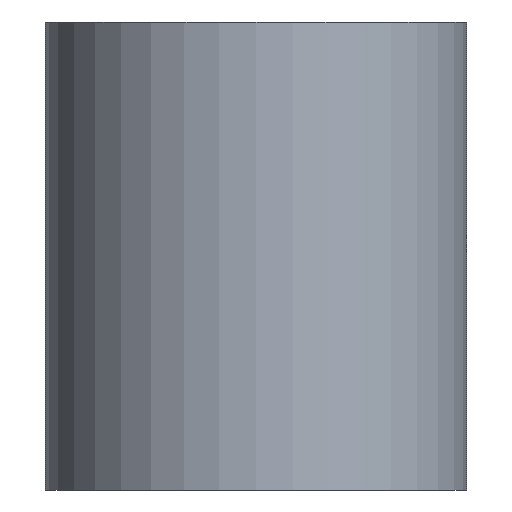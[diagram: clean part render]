
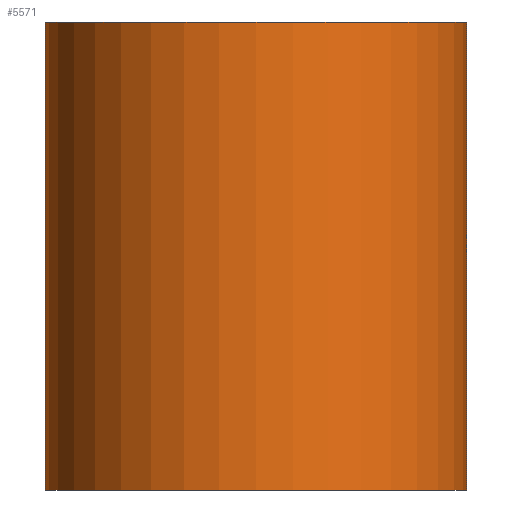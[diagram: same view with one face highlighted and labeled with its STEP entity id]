
A CAD part, left-side view. The second image highlights one B-rep face of the part: STEP entity #5571.
In plain terms, the highlighted cylindrical face has radius 3.6 mm (diameter 7.2 mm), a partial arc.
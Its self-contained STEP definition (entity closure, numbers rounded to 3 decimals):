
#467=LINE('',#9800,#811);
#469=LINE('',#9805,#813);
#811=VECTOR('',#8115,1000.);
#813=VECTOR('',#8121,1000.);
#2151=ORIENTED_EDGE('',*,*,#3107,.T.);
#2152=ORIENTED_EDGE('',*,*,#3108,.F.);
#2153=ORIENTED_EDGE('',*,*,#3040,.F.);
#2154=ORIENTED_EDGE('',*,*,#3105,.T.);
#3040=EDGE_CURVE('',#3598,#3595,#4034,.T.);
#3105=EDGE_CURVE('',#3598,#3663,#467,.T.);
#3107=EDGE_CURVE('',#3663,#3664,#4096,.T.);
#3108=EDGE_CURVE('',#3595,#3664,#469,.T.);
#3595=VERTEX_POINT('',#9608);
#3598=VERTEX_POINT('',#9613);
#3663=VERTEX_POINT('',#9799);
#3664=VERTEX_POINT('',#9804);
#4034=CIRCLE('',#6201,3.6);
#4096=CIRCLE('',#6320,3.6);
#4508=EDGE_LOOP('',(#2151,#2152,#2153,#2154));
#4974=FACE_BOUND('',#4508,.T.);
#5251=CYLINDRICAL_SURFACE('',#6319,3.6);
#5571=ADVANCED_FACE('',(#4974),#5251,.T.);
#6201=AXIS2_PLACEMENT_3D('',#9614,#7876,#7877);
#6319=AXIS2_PLACEMENT_3D('',#9802,#8117,#8118);
#6320=AXIS2_PLACEMENT_3D('',#9803,#8119,#8120);
#7876=DIRECTION('',(0.,0.,1.));
#7877=DIRECTION('',(1.,0.,0.));
#8115=DIRECTION('',(0.,0.,-1.));
#8117=DIRECTION('',(0.,0.,-1.));
#8118=DIRECTION('',(-1.,0.,0.));
#8119=DIRECTION('',(0.,0.,1.));
#8120=DIRECTION('',(1.,0.,0.));
#8121=DIRECTION('',(0.,0.,-1.));
#9608=CARTESIAN_POINT('',(-56.,-3.6,8.));
#9613=CARTESIAN_POINT('',(-56.,3.6,8.));
#9614=CARTESIAN_POINT('',(-56.,0.,8.));
#9799=CARTESIAN_POINT('',(-56.,3.6,0.));
#9800=CARTESIAN_POINT('',(-56.,3.6,8.));
#9802=CARTESIAN_POINT('',(-56.,0.,8.));
#9803=CARTESIAN_POINT('',(-56.,0.,0.));
#9804=CARTESIAN_POINT('',(-56.,-3.6,0.));
#9805=CARTESIAN_POINT('',(-56.,-3.6,8.));
